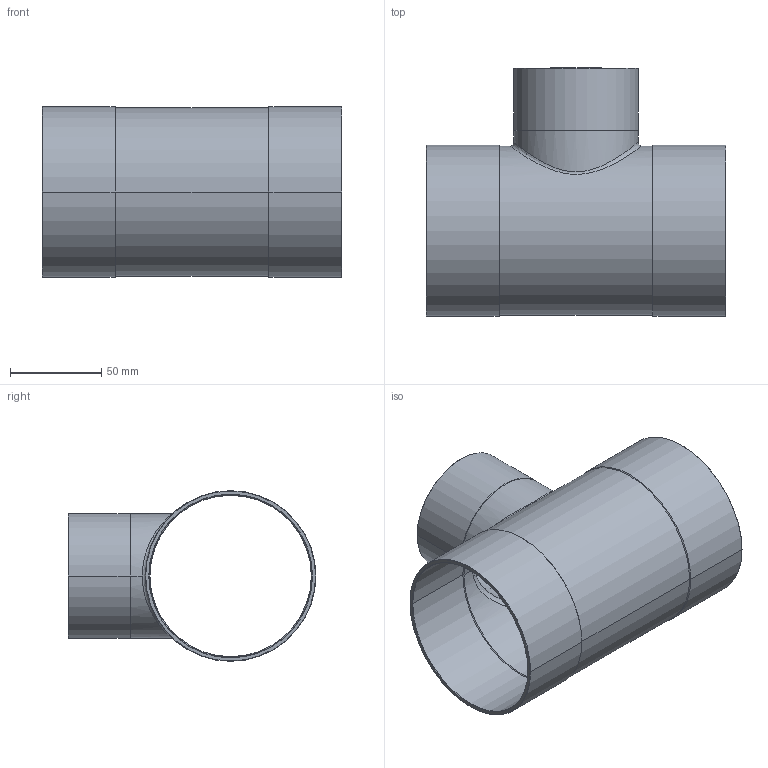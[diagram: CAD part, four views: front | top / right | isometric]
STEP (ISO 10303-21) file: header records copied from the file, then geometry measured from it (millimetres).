
FILE_DESCRIPTION((''),'2;1');
FILE_NAME('G:\Technics\CAD\Bauteile\15130\15130896489.stp','2005-11-02T10:20:05',('boden'),(''),'Autodesk Inventor 8','Autodesk Inventor 8','');
FILE_SCHEMA(('AUTOMOTIVE_DESIGN { 1 0 10303 214 1 1 1 1 }'));
Length unit declared in the file: millimetre
Products named in the file (1): 15130896489
Bounding box: 164 x 135.7 x 93.4 mm (x, y, z)
Volume: 112526.6 mm3; surface area: 108669 mm2
Topology: 1 solids, 1 shells, 49 faces, 108 edges, 60 vertices
Faces by surface type: cone 24, cylinder 20, plane 3, bspline 2
Entity records: 1833 total; most frequent: CARTESIAN_POINT 726, DIRECTION 242, ORIENTED_EDGE 216, EDGE_CURVE 108, AXIS2_PLACEMENT_3D 98, VERTEX_POINT 60, EDGE_LOOP 52, CIRCLE 50
